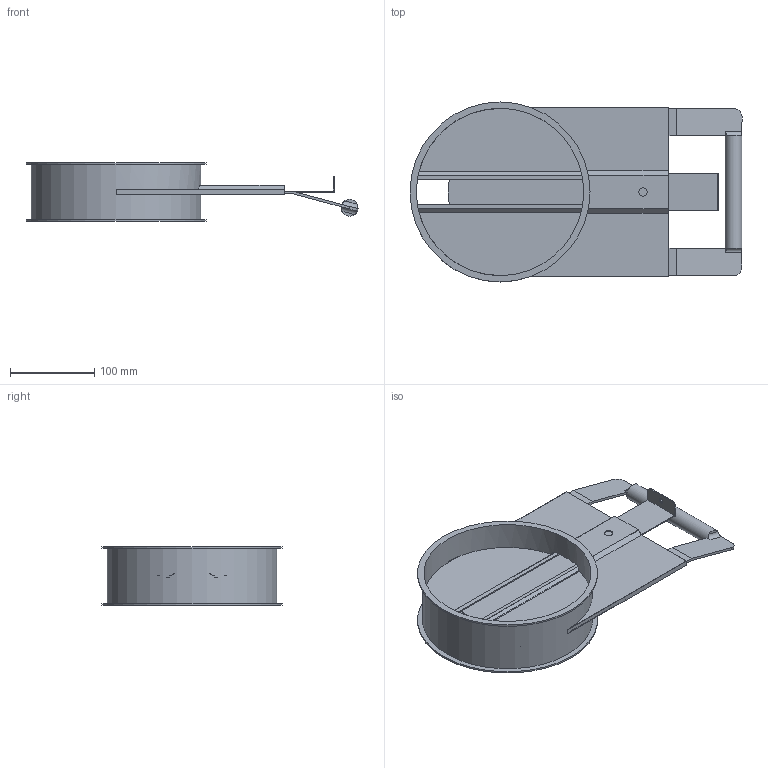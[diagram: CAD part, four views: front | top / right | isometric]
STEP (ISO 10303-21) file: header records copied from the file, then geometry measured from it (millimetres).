
FILE_DESCRIPTION((''),'2;1');
FILE_NAME('U:\Wolfgang\Marcel-3D\fertig\Kapitel 9\2021079.stp','2011-10-11T12:54:21',('iwienholt'),(''),'Autodesk Inventor 2010','Autodesk Inventor 2010','');
FILE_SCHEMA(('AUTOMOTIVE_DESIGN { 1 0 10303 214 1 1 1 1 }'));
Length unit declared in the file: millimetre
Products named in the file (4): 2021079; Dosierzunge DN200; Rohr mit Führung DN200; Schieberblech DN200
Assembly tree (3 placements, depth 2):
  2021079
    Dosierzunge DN200
    Rohr mit Führung DN200
    Schieberblech DN200
Bounding box: 394.62 x 214 x 70 mm (x, y, z)
Volume: 356857.3 mm3; surface area: 372879 mm2
Topology: 3 solids, 3 shells, 86 faces, 242 edges, 161 vertices
Faces by surface type: plane 59, cylinder 19, bspline 8
Full cylindrical faces by diameter (mm): 20 x1, 199 x1, 202 x1, 214 x2
Entity records: 2949 total; most frequent: CARTESIAN_POINT 634, ORIENTED_EDGE 458, DIRECTION 455, EDGE_CURVE 229, VECTOR 157, LINE 157, VERTEX_POINT 156, AXIS2_PLACEMENT_3D 149
